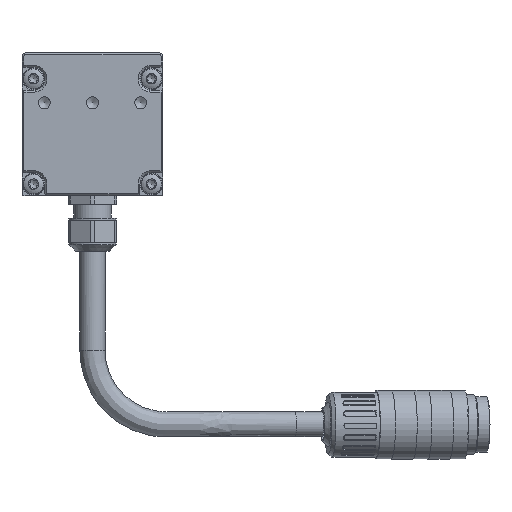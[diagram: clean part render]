
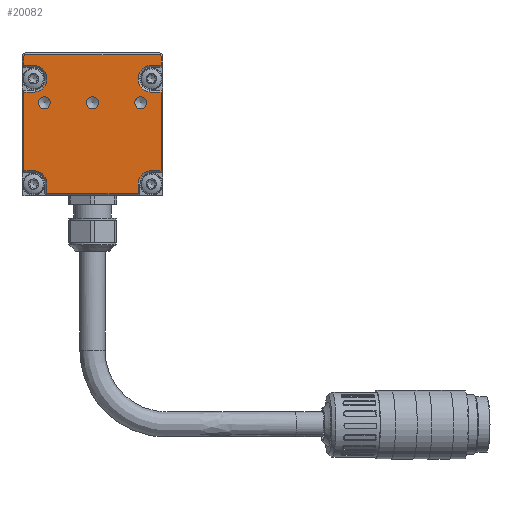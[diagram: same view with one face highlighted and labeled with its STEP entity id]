
A CAD part, left-side view. The second image highlights one B-rep face of the part: STEP entity #20082.
In plain terms, the highlighted planar face has unit normal (-1, 0, 0).
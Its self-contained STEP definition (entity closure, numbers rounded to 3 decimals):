
#880=LINE('',#27913,#1882);
#882=LINE('',#27917,#1884);
#886=LINE('',#27925,#1888);
#889=LINE('',#27931,#1891);
#891=LINE('',#27936,#1893);
#895=LINE('',#27944,#1897);
#897=LINE('',#27948,#1899);
#901=LINE('',#27957,#1903);
#903=LINE('',#27962,#1905);
#906=LINE('',#27970,#1908);
#909=LINE('',#27976,#1911);
#912=LINE('',#27984,#1914);
#916=LINE('',#27992,#1918);
#919=LINE('',#27999,#1921);
#1882=VECTOR('',#23214,1000.);
#1884=VECTOR('',#23218,1000.);
#1888=VECTOR('',#23224,1000.);
#1891=VECTOR('',#23229,1000.);
#1893=VECTOR('',#23235,1000.);
#1897=VECTOR('',#23241,1000.);
#1899=VECTOR('',#23247,1000.);
#1903=VECTOR('',#23257,1000.);
#1905=VECTOR('',#23265,1000.);
#1908=VECTOR('',#23274,1000.);
#1911=VECTOR('',#23283,1000.);
#1914=VECTOR('',#23292,1000.);
#1918=VECTOR('',#23302,1000.);
#1921=VECTOR('',#23311,1000.);
#2682=PLANE('',#21147);
#3923=ORIENTED_EDGE('',*,*,#7674,.T.);
#3924=ORIENTED_EDGE('',*,*,#7675,.T.);
#3925=ORIENTED_EDGE('',*,*,#7676,.T.);
#3926=ORIENTED_EDGE('',*,*,#7648,.T.);
#3927=ORIENTED_EDGE('',*,*,#7645,.T.);
#3928=ORIENTED_EDGE('',*,*,#7639,.T.);
#3929=ORIENTED_EDGE('',*,*,#7656,.T.);
#3930=ORIENTED_EDGE('',*,*,#7654,.T.);
#3931=ORIENTED_EDGE('',*,*,#7652,.T.);
#3932=ORIENTED_EDGE('',*,*,#7630,.T.);
#3933=ORIENTED_EDGE('',*,*,#7663,.T.);
#3934=ORIENTED_EDGE('',*,*,#7661,.T.);
#3935=ORIENTED_EDGE('',*,*,#7659,.T.);
#3936=ORIENTED_EDGE('',*,*,#7628,.T.);
#3937=ORIENTED_EDGE('',*,*,#7673,.F.);
#3938=ORIENTED_EDGE('',*,*,#7643,.T.);
#3939=ORIENTED_EDGE('',*,*,#7672,.F.);
#3940=ORIENTED_EDGE('',*,*,#7637,.T.);
#3941=ORIENTED_EDGE('',*,*,#7671,.T.);
#3942=ORIENTED_EDGE('',*,*,#7669,.T.);
#3943=ORIENTED_EDGE('',*,*,#7667,.T.);
#3944=ORIENTED_EDGE('',*,*,#7634,.T.);
#3945=ORIENTED_EDGE('',*,*,#7650,.T.);
#7628=EDGE_CURVE('',#9566,#9567,#880,.T.);
#7630=EDGE_CURVE('',#9569,#9568,#882,.T.);
#7634=EDGE_CURVE('',#9570,#9571,#886,.T.);
#7637=EDGE_CURVE('',#9572,#9573,#889,.T.);
#7639=EDGE_CURVE('',#9575,#9574,#891,.T.);
#7643=EDGE_CURVE('',#9576,#9577,#895,.T.);
#7645=EDGE_CURVE('',#9578,#9575,#897,.T.);
#7648=EDGE_CURVE('',#9579,#9578,#10697,.T.);
#7650=EDGE_CURVE('',#9571,#9579,#901,.T.);
#7652=EDGE_CURVE('',#9580,#9569,#903,.T.);
#7654=EDGE_CURVE('',#9581,#9580,#10698,.T.);
#7656=EDGE_CURVE('',#9574,#9581,#906,.T.);
#7659=EDGE_CURVE('',#9582,#9566,#909,.T.);
#7661=EDGE_CURVE('',#9583,#9582,#10699,.T.);
#7663=EDGE_CURVE('',#9568,#9583,#912,.T.);
#7667=EDGE_CURVE('',#9584,#9570,#916,.T.);
#7669=EDGE_CURVE('',#9585,#9584,#10700,.T.);
#7671=EDGE_CURVE('',#9573,#9585,#919,.T.);
#7672=EDGE_CURVE('',#9572,#9577,#10701,.T.);
#7673=EDGE_CURVE('',#9576,#9567,#10702,.T.);
#7674=EDGE_CURVE('',#9586,#9586,#10703,.T.);
#7675=EDGE_CURVE('',#9587,#9587,#10704,.T.);
#7676=EDGE_CURVE('',#9588,#9588,#10705,.T.);
#9566=VERTEX_POINT('',#27910);
#9567=VERTEX_POINT('',#27912);
#9568=VERTEX_POINT('',#27916);
#9569=VERTEX_POINT('',#27918);
#9570=VERTEX_POINT('',#27922);
#9571=VERTEX_POINT('',#27924);
#9572=VERTEX_POINT('',#27928);
#9573=VERTEX_POINT('',#27930);
#9574=VERTEX_POINT('',#27935);
#9575=VERTEX_POINT('',#27937);
#9576=VERTEX_POINT('',#27941);
#9577=VERTEX_POINT('',#27943);
#9578=VERTEX_POINT('',#27949);
#9579=VERTEX_POINT('',#27953);
#9580=VERTEX_POINT('',#27963);
#9581=VERTEX_POINT('',#27967);
#9582=VERTEX_POINT('',#27977);
#9583=VERTEX_POINT('',#27981);
#9584=VERTEX_POINT('',#27991);
#9585=VERTEX_POINT('',#27995);
#9586=VERTEX_POINT('',#28007);
#9587=VERTEX_POINT('',#28009);
#9588=VERTEX_POINT('',#28011);
#10697=CIRCLE('',#21122,3.6);
#10698=CIRCLE('',#21128,3.6);
#10699=CIRCLE('',#21134,3.6);
#10700=CIRCLE('',#21140,3.6);
#10701=CIRCLE('',#21144,0.5);
#10702=CIRCLE('',#21146,0.5);
#10703=CIRCLE('',#21148,1.621);
#10704=CIRCLE('',#21149,1.621);
#10705=CIRCLE('',#21150,1.621);
#11388=EDGE_LOOP('',(#3923));
#11389=EDGE_LOOP('',(#3924));
#11390=EDGE_LOOP('',(#3925));
#11391=EDGE_LOOP('',(#3926,#3927,#3928,#3929,#3930,#3931,#3932,#3933,#3934,
#3935,#3936,#3937,#3938,#3939,#3940,#3941,#3942,#3943,#3944,#3945));
#12478=FACE_BOUND('',#11388,.T.);
#12479=FACE_BOUND('',#11389,.T.);
#12480=FACE_BOUND('',#11390,.T.);
#12481=FACE_BOUND('',#11391,.T.);
#20082=ADVANCED_FACE('',(#12478,#12479,#12480,#12481),#2682,.F.);
#21122=AXIS2_PLACEMENT_3D('',#27954,#23252,#23253);
#21128=AXIS2_PLACEMENT_3D('',#27966,#23269,#23270);
#21134=AXIS2_PLACEMENT_3D('',#27980,#23287,#23288);
#21140=AXIS2_PLACEMENT_3D('',#27996,#23306,#23307);
#21144=AXIS2_PLACEMENT_3D('',#28002,#23316,#23317);
#21146=AXIS2_PLACEMENT_3D('',#28004,#23320,#23321);
#21147=AXIS2_PLACEMENT_3D('',#28005,#23322,#23323);
#21148=AXIS2_PLACEMENT_3D('',#28006,#23324,#23325);
#21149=AXIS2_PLACEMENT_3D('',#28008,#23326,#23327);
#21150=AXIS2_PLACEMENT_3D('',#28010,#23328,#23329);
#23214=DIRECTION('',(0.,0.,1.));
#23218=DIRECTION('',(0.,0.,1.));
#23224=DIRECTION('',(0.,0.,-1.));
#23229=DIRECTION('',(0.,0.,-1.));
#23235=DIRECTION('',(0.,-1.,0.));
#23241=DIRECTION('',(0.,1.,0.));
#23247=DIRECTION('',(0.,0.,-1.));
#23252=DIRECTION('',(1.,0.,0.));
#23253=DIRECTION('',(0.,1.,0.));
#23257=DIRECTION('',(0.,-1.,0.));
#23265=DIRECTION('',(0.,-1.,0.));
#23269=DIRECTION('',(1.,0.,0.));
#23270=DIRECTION('',(0.,1.,0.));
#23274=DIRECTION('',(0.,0.,1.));
#23283=DIRECTION('',(0.,-1.,0.));
#23287=DIRECTION('',(1.,0.,0.));
#23288=DIRECTION('',(0.,1.,0.));
#23292=DIRECTION('',(0.,1.,0.));
#23302=DIRECTION('',(0.,1.,0.));
#23306=DIRECTION('',(1.,0.,0.));
#23307=DIRECTION('',(0.,1.,0.));
#23311=DIRECTION('',(0.,-1.,0.));
#23316=DIRECTION('',(1.,0.,0.));
#23317=DIRECTION('',(0.,1.,0.));
#23320=DIRECTION('',(1.,0.,0.));
#23321=DIRECTION('',(0.,1.,0.));
#23322=DIRECTION('',(1.,0.,0.));
#23323=DIRECTION('',(0.,1.,0.));
#23324=DIRECTION('',(1.,0.,0.));
#23325=DIRECTION('',(0.,-1.,0.));
#23326=DIRECTION('',(1.,0.,0.));
#23327=DIRECTION('',(0.,-1.,0.));
#23328=DIRECTION('',(1.,0.,0.));
#23329=DIRECTION('',(0.,-1.,0.));
#27910=CARTESIAN_POINT('',(-214.998,-18.5,35.119));
#27912=CARTESIAN_POINT('',(-214.998,-18.5,37.519));
#27913=CARTESIAN_POINT('',(-214.998,-18.5,0.019));
#27916=CARTESIAN_POINT('',(-214.998,-18.5,27.919));
#27917=CARTESIAN_POINT('',(-214.998,-18.5,0.019));
#27918=CARTESIAN_POINT('',(-214.998,-18.5,6.719));
#27922=CARTESIAN_POINT('',(-214.998,18.5,27.919));
#27924=CARTESIAN_POINT('',(-214.998,18.5,6.719));
#27925=CARTESIAN_POINT('',(-214.998,18.5,0.019));
#27928=CARTESIAN_POINT('',(-214.998,18.5,37.519));
#27930=CARTESIAN_POINT('',(-214.998,18.5,35.119));
#27931=CARTESIAN_POINT('',(-214.998,18.5,0.019));
#27935=CARTESIAN_POINT('',(-214.998,-12.3,0.519));
#27936=CARTESIAN_POINT('',(-214.998,-12.3,0.519));
#27937=CARTESIAN_POINT('',(-214.998,12.3,0.519));
#27941=CARTESIAN_POINT('',(-214.998,-18.,38.019));
#27943=CARTESIAN_POINT('',(-214.998,18.,38.019));
#27944=CARTESIAN_POINT('',(-214.998,-19.,38.019));
#27948=CARTESIAN_POINT('',(-214.998,12.3,0.019));
#27949=CARTESIAN_POINT('',(-214.998,12.3,3.119));
#27953=CARTESIAN_POINT('',(-214.998,15.9,6.719));
#27954=CARTESIAN_POINT('',(-214.998,15.9,3.119));
#27957=CARTESIAN_POINT('',(-214.998,-19.,6.719));
#27962=CARTESIAN_POINT('',(-214.998,-19.,6.719));
#27963=CARTESIAN_POINT('',(-214.998,-15.9,6.719));
#27966=CARTESIAN_POINT('',(-214.998,-15.9,3.119));
#27967=CARTESIAN_POINT('',(-214.998,-12.3,3.119));
#27970=CARTESIAN_POINT('',(-214.998,-12.3,0.019));
#27976=CARTESIAN_POINT('',(-214.998,-19.,35.119));
#27977=CARTESIAN_POINT('',(-214.998,-15.9,35.119));
#27980=CARTESIAN_POINT('',(-214.998,-15.9,31.519));
#27981=CARTESIAN_POINT('',(-214.998,-15.9,27.919));
#27984=CARTESIAN_POINT('',(-214.998,-19.,27.919));
#27991=CARTESIAN_POINT('',(-214.998,15.9,27.919));
#27992=CARTESIAN_POINT('',(-214.998,-19.,27.919));
#27995=CARTESIAN_POINT('',(-214.998,15.9,35.119));
#27996=CARTESIAN_POINT('',(-214.998,15.9,31.519));
#27999=CARTESIAN_POINT('',(-214.998,-19.,35.119));
#28002=CARTESIAN_POINT('',(-214.998,18.,37.519));
#28004=CARTESIAN_POINT('',(-214.998,-18.,37.519));
#28005=CARTESIAN_POINT('',(-214.998,-19.,0.019));
#28006=CARTESIAN_POINT('',(-214.998,13.,25.019));
#28007=CARTESIAN_POINT('',(-214.998,11.379,25.019));
#28008=CARTESIAN_POINT('',(-214.998,0.,25.019));
#28009=CARTESIAN_POINT('',(-214.998,-1.621,25.019));
#28010=CARTESIAN_POINT('',(-214.998,-13.,25.019));
#28011=CARTESIAN_POINT('',(-214.998,-14.621,25.019));
